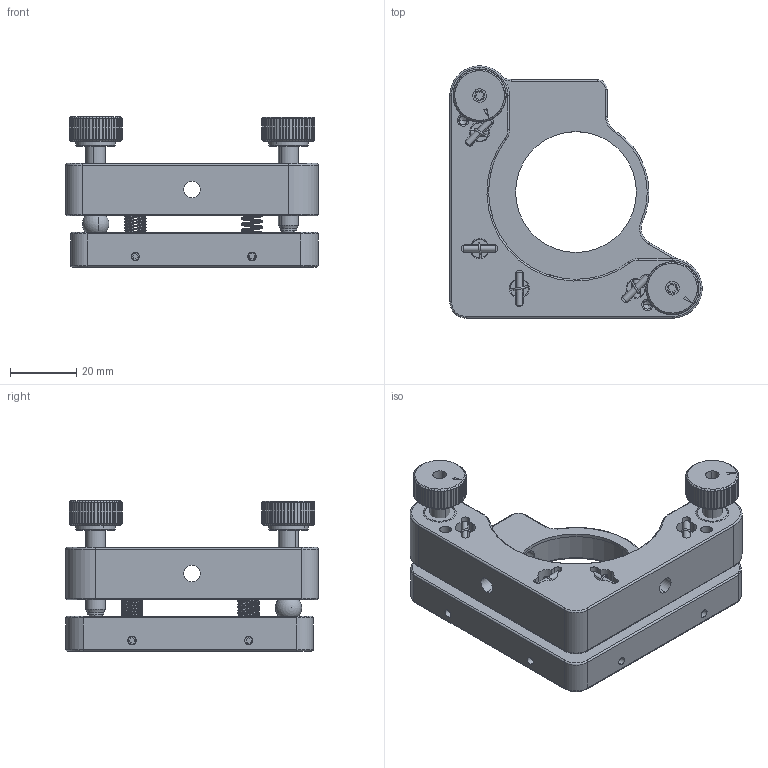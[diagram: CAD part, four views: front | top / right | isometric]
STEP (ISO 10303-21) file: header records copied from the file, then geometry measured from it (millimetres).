
FILE_DESCRIPTION (( 'STEP AP203' ), '1' );
FILE_NAME ('M-TMSO-1.5L-HOX.STEP', '2021-09-29T03:12:56', ( '匠星' ), ( '' ), 'SwSTEP 2.0', 'SolidWorks 2019', '' );
FILE_SCHEMA (( 'CONFIG_CONTROL_DESIGN' ));
Length unit declared in the file: millimetre
Products named in the file (1): M-TMSO-1.5L-HOX
Bounding box: 76.2 x 76.2 x 45.3 mm (x, y, z)
Volume: 63057.6 mm3; surface area: 31774.4 mm2
Topology: 31 solids, 31 shells, 1157 faces, 2948 edges, 1873 vertices
Faces by surface type: cylinder 556, plane 421, torus 80, cone 62, sphere 22, bspline 16
Entity records: 53238 total; most frequent: CARTESIAN_POINT 26537, ORIENTED_EDGE 5822, DIRECTION 5371, EDGE_CURVE 2911, AXIS2_PLACEMENT_3D 2140, VERTEX_POINT 1866, EDGE_LOOP 1243, FACE_OUTER_BOUND 1157
